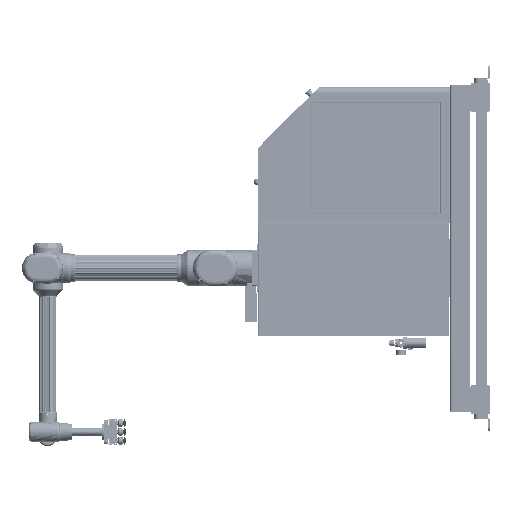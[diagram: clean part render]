
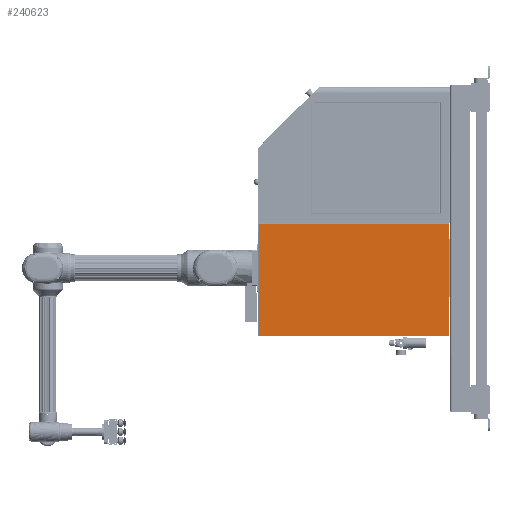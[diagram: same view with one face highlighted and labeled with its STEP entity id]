
A CAD part, left-side view. The second image highlights one B-rep face of the part: STEP entity #240623.
In plain terms, the highlighted planar face has unit normal (-1, 0, 0).
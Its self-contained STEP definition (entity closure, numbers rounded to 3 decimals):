
#742 = LINE ( 'NONE', #255117, #183149 ) ;
#8982 = CARTESIAN_POINT ( 'NONE',  ( -215., 546.25, -61.6 ) ) ;
#41986 = DIRECTION ( 'NONE',  ( 0., 0., 1. ) ) ;
#43646 = EDGE_LOOP ( 'NONE', ( #218860, #46727, #53389, #191482 ) ) ;
#46727 = ORIENTED_EDGE ( 'NONE', *, *, #70034, .T. ) ;
#51416 = FACE_OUTER_BOUND ( 'NONE', #43646, .T. ) ;
#53389 = ORIENTED_EDGE ( 'NONE', *, *, #110354, .T. ) ;
#56061 = VECTOR ( 'NONE', #41986, 1000. ) ;
#60430 = CARTESIAN_POINT ( 'NONE',  ( -215., 61., -348.6 ) ) ;
#61217 = LINE ( 'NONE', #232206, #85424 ) ;
#62264 = VERTEX_POINT ( 'NONE', #204904 ) ;
#70034 = EDGE_CURVE ( 'NONE', #91290, #62264, #145194, .T. ) ;
#74051 = PLANE ( 'NONE',  #177334 ) ;
#77931 = VERTEX_POINT ( 'NONE', #86560 ) ;
#85424 = VECTOR ( 'NONE', #170031, 1000. ) ;
#86560 = CARTESIAN_POINT ( 'NONE',  ( -215., 1036., 225.4 ) ) ;
#91290 = VERTEX_POINT ( 'NONE', #216406 ) ;
#108058 = LINE ( 'NONE', #147611, #168091 ) ;
#110354 = EDGE_CURVE ( 'NONE', #62264, #77931, #61217, .T. ) ;
#123369 = EDGE_CURVE ( 'NONE', #250740, #91290, #742, .T. ) ;
#145194 = LINE ( 'NONE', #60430, #56061 ) ;
#147611 = CARTESIAN_POINT ( 'NONE',  ( -215., 1036., -351.6 ) ) ;
#149008 = DIRECTION ( 'NONE',  ( 0., 0., -1. ) ) ;
#168091 = VECTOR ( 'NONE', #149008, 1000. ) ;
#170031 = DIRECTION ( 'NONE',  ( 0., 1., 0. ) ) ;
#177334 = AXIS2_PLACEMENT_3D ( 'NONE', #8982, #223851, #181384 ) ;
#181384 = DIRECTION ( 'NONE',  ( 0., 0., 1. ) ) ;
#183149 = VECTOR ( 'NONE', #194332, 1000. ) ;
#183161 = CARTESIAN_POINT ( 'NONE',  ( -215., 1036., -348.6 ) ) ;
#191482 = ORIENTED_EDGE ( 'NONE', *, *, #206504, .T. ) ;
#194332 = DIRECTION ( 'NONE',  ( 0., -1., 0. ) ) ;
#204904 = CARTESIAN_POINT ( 'NONE',  ( -215., 61., 225.4 ) ) ;
#206504 = EDGE_CURVE ( 'NONE', #77931, #250740, #108058, .T. ) ;
#216406 = CARTESIAN_POINT ( 'NONE',  ( -215., 61., -348.6 ) ) ;
#218860 = ORIENTED_EDGE ( 'NONE', *, *, #123369, .T. ) ;
#223851 = DIRECTION ( 'NONE',  ( -1., 0., 0. ) ) ;
#232206 = CARTESIAN_POINT ( 'NONE',  ( -215., 59.5, 225.4 ) ) ;
#240623 = ADVANCED_FACE ( 'NONE', ( #51416 ), #74051, .T. ) ;
#250740 = VERTEX_POINT ( 'NONE', #183161 ) ;
#255117 = CARTESIAN_POINT ( 'NONE',  ( -215., 1036., -348.6 ) ) ;
